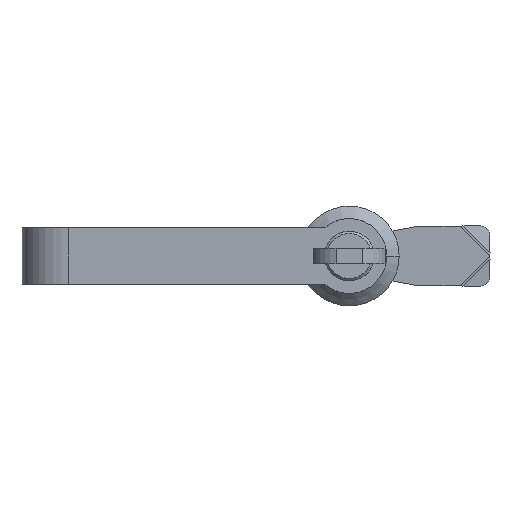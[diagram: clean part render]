
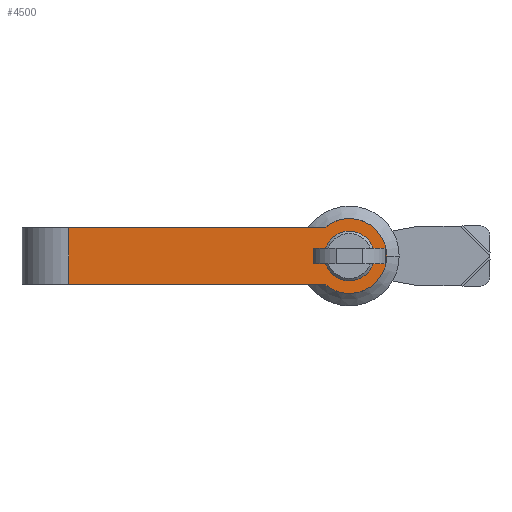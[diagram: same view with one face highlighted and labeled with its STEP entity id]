
A CAD part, front view. The second image highlights one B-rep face of the part: STEP entity #4500.
In plain terms, the highlighted planar face has unit normal (0, -1, 0).
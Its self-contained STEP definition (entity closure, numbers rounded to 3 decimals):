
#97 = FACE_BOUND ( 'NONE', #5451, .T. ) ;
#103 = VERTEX_POINT ( 'NONE', #2129 ) ;
#290 = CIRCLE ( 'NONE', #2641, 8. ) ;
#373 = LINE ( 'NONE', #5010, #2678 ) ;
#543 = EDGE_CURVE ( 'NONE', #4537, #1748, #4004, .T. ) ;
#552 = DIRECTION ( 'NONE',  ( -1., 0., 0. ) ) ;
#1013 = CARTESIAN_POINT ( 'NONE',  ( 24.556, -26.469, -6.99 ) ) ;
#1102 = EDGE_CURVE ( 'NONE', #2543, #103, #3635, .T. ) ;
#1164 = VERTEX_POINT ( 'NONE', #5463 ) ;
#1636 = CARTESIAN_POINT ( 'NONE',  ( -65.444, -26.469, -6.99 ) ) ;
#1638 = DIRECTION ( 'NONE',  ( 0., 0., -1. ) ) ;
#1662 = CARTESIAN_POINT ( 'NONE',  ( 24.556, -26.469, 2.01 ) ) ;
#1724 = DIRECTION ( 'NONE',  ( 0., -1., 0. ) ) ;
#1748 = VERTEX_POINT ( 'NONE', #2258 ) ;
#1967 = AXIS2_PLACEMENT_3D ( 'NONE', #1662, #3326, #4686 ) ;
#2078 = VECTOR ( 'NONE', #5360, 1000. ) ;
#2124 = DIRECTION ( 'NONE',  ( 0., 0., -1. ) ) ;
#2129 = CARTESIAN_POINT ( 'NONE',  ( 36.556, -26.469, 2.01 ) ) ;
#2237 = ORIENTED_EDGE ( 'NONE', *, *, #4245, .T. ) ;
#2258 = CARTESIAN_POINT ( 'NONE',  ( 16.619, -26.469, -6.99 ) ) ;
#2278 = EDGE_CURVE ( 'NONE', #5209, #4537, #373, .T. ) ;
#2467 = VECTOR ( 'NONE', #552, 1000. ) ;
#2482 = ORIENTED_EDGE ( 'NONE', *, *, #543, .T. ) ;
#2543 = VERTEX_POINT ( 'NONE', #5399 ) ;
#2641 = AXIS2_PLACEMENT_3D ( 'NONE', #4488, #3230, #4961 ) ;
#2678 = VECTOR ( 'NONE', #1638, 1000. ) ;
#2704 = AXIS2_PLACEMENT_3D ( 'NONE', #3782, #4155, #5495 ) ;
#3037 = EDGE_CURVE ( 'NONE', #1164, #4940, #290, .T. ) ;
#3159 = CARTESIAN_POINT ( 'NONE',  ( 24.556, -26.469, 11.01 ) ) ;
#3230 = DIRECTION ( 'NONE',  ( 0., 1., 0. ) ) ;
#3326 = DIRECTION ( 'NONE',  ( 0., 1., 0. ) ) ;
#3397 = EDGE_CURVE ( 'NONE', #2543, #5209, #3634, .T. ) ;
#3410 = ORIENTED_EDGE ( 'NONE', *, *, #3037, .T. ) ;
#3533 = CIRCLE ( 'NONE', #2704, 8. ) ;
#3634 = LINE ( 'NONE', #3159, #2467 ) ;
#3635 = CIRCLE ( 'NONE', #1967, 12. ) ;
#3648 = FACE_OUTER_BOUND ( 'NONE', #5281, .T. ) ;
#3691 = DIRECTION ( 'NONE',  ( 0., 1., 0. ) ) ;
#3713 = CARTESIAN_POINT ( 'NONE',  ( 24.556, -26.469, 2.01 ) ) ;
#3782 = CARTESIAN_POINT ( 'NONE',  ( 24.556, -26.469, 2.01 ) ) ;
#4004 = LINE ( 'NONE', #1013, #2078 ) ;
#4041 = CARTESIAN_POINT ( 'NONE',  ( 16.556, -26.469, 2.01 ) ) ;
#4155 = DIRECTION ( 'NONE',  ( 0., 1., 0. ) ) ;
#4245 = EDGE_CURVE ( 'NONE', #4940, #1164, #3533, .T. ) ;
#4424 = ORIENTED_EDGE ( 'NONE', *, *, #1102, .F. ) ;
#4435 = ORIENTED_EDGE ( 'NONE', *, *, #3397, .T. ) ;
#4459 = ORIENTED_EDGE ( 'NONE', *, *, #5014, .F. ) ;
#4488 = CARTESIAN_POINT ( 'NONE',  ( 24.556, -26.469, 2.01 ) ) ;
#4500 = ADVANCED_FACE ( 'NONE', ( #97, #3648 ), #5363, .T. ) ;
#4537 = VERTEX_POINT ( 'NONE', #1636 ) ;
#4652 = AXIS2_PLACEMENT_3D ( 'NONE', #4779, #1724, #2124 ) ;
#4658 = DIRECTION ( 'NONE',  ( 1., 0., 0. ) ) ;
#4686 = DIRECTION ( 'NONE',  ( 1., 0., 0. ) ) ;
#4779 = CARTESIAN_POINT ( 'NONE',  ( -20.444, -26.469, 11.01 ) ) ;
#4940 = VERTEX_POINT ( 'NONE', #4041 ) ;
#4961 = DIRECTION ( 'NONE',  ( 1., 0., 0. ) ) ;
#5010 = CARTESIAN_POINT ( 'NONE',  ( -65.444, -26.469, 11.01 ) ) ;
#5014 = EDGE_CURVE ( 'NONE', #103, #1748, #5559, .T. ) ;
#5209 = VERTEX_POINT ( 'NONE', #5482 ) ;
#5261 = ORIENTED_EDGE ( 'NONE', *, *, #2278, .T. ) ;
#5281 = EDGE_LOOP ( 'NONE', ( #2482, #4459, #4424, #4435, #5261 ) ) ;
#5282 = AXIS2_PLACEMENT_3D ( 'NONE', #3713, #3691, #4658 ) ;
#5360 = DIRECTION ( 'NONE',  ( 1., 0., 0. ) ) ;
#5363 = PLANE ( 'NONE',  #4652 ) ;
#5399 = CARTESIAN_POINT ( 'NONE',  ( 16.619, -26.469, 11.01 ) ) ;
#5451 = EDGE_LOOP ( 'NONE', ( #3410, #2237 ) ) ;
#5463 = CARTESIAN_POINT ( 'NONE',  ( 32.556, -26.469, 2.01 ) ) ;
#5482 = CARTESIAN_POINT ( 'NONE',  ( -65.444, -26.469, 11.01 ) ) ;
#5495 = DIRECTION ( 'NONE',  ( 1., 0., 0. ) ) ;
#5559 = CIRCLE ( 'NONE', #5282, 12. ) ;
